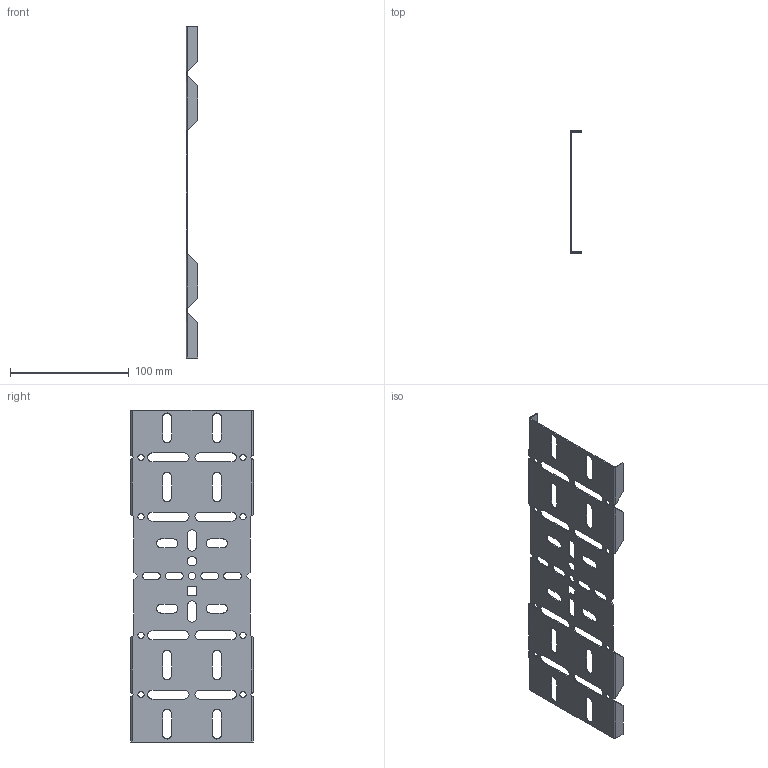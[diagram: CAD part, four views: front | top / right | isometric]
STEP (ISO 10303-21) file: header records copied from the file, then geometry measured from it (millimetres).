
FILE_DESCRIPTION (( 'STEP AP203' ), '1' );
FILE_NAME ('ERE_UNIÓN UNIVERSAL JUER-U H100.step', '2023-07-28T15:06:00', ( '' ), ( '' ), 'SwSTEP 2.0', 'SolidWorks 2022', '' );
FILE_SCHEMA (( 'CONFIG_CONTROL_DESIGN' ));
Length unit declared in the file: millimetre
Products named in the file (1): ERE_UNIÓN UNIVERSAL JUER-U H100
Bounding box: 10 x 103 x 280 mm (x, y, z)
Volume: 25926.6 mm3; surface area: 54438.9 mm2
Topology: 1 solids, 1 shells, 234 faces, 632 edges, 400 vertices
Faces by surface type: plane 124, cylinder 98, bspline 12
Entity records: 7837 total; most frequent: CARTESIAN_POINT 1735, ORIENTED_EDGE 1264, DIRECTION 1202, EDGE_CURVE 632, VECTOR 412, LINE 412, VERTEX_POINT 400, AXIS2_PLACEMENT_3D 395
